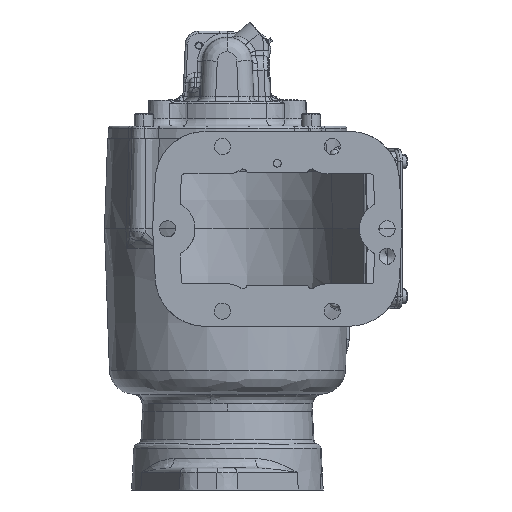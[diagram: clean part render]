
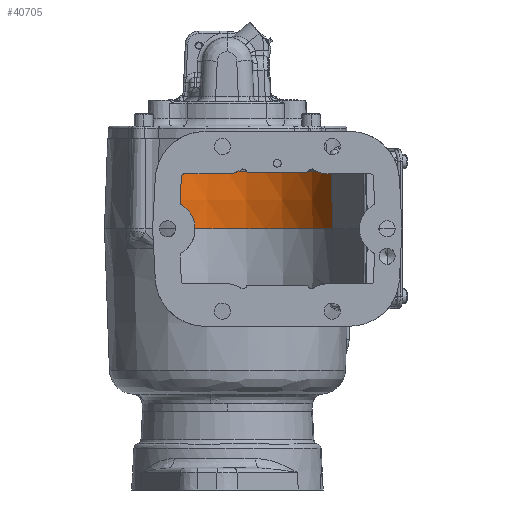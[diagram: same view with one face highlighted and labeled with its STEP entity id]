
A CAD part, front view. The second image highlights one B-rep face of the part: STEP entity #40705.
In plain terms, the highlighted conical face has half-angle 2 degrees and reference radius 71.882 mm.
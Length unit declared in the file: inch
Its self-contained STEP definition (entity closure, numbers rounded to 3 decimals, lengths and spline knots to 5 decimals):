
#4745 = FACE_OUTER_BOUND ( 'NONE', #75645, .T. ) ;
#5788 = CIRCLE ( 'NONE', #86794, 2.77964 ) ;
#9739 = CARTESIAN_POINT ( 'NONE',  ( 1.34502, 4.32573, 1.44209 ) ) ;
#10565 = CARTESIAN_POINT ( 'NONE',  ( -1.25, 6.10924, 1.44209 ) ) ;
#13751 = DIRECTION ( 'NONE',  ( 0., -1., 0. ) ) ;
#23422 = CARTESIAN_POINT ( 'NONE',  ( 1.39203, 4.34378, 0. ) ) ;
#25257 = CARTESIAN_POINT ( 'NONE',  ( -4.08, 3.3296, 0. ) ) ;
#32067 = ORIENTED_EDGE ( 'NONE', *, *, #131048, .T. ) ;
#34208 = CARTESIAN_POINT ( 'NONE',  ( 1.39203, 4.34378, 0. ) ) ;
#37820 = LINE ( 'NONE', #23422, #216923 ) ;
#40705 = ADVANCED_FACE ( 'NONE', ( #4745 ), #42455, .F. ) ;
#42455 = CONICAL_SURFACE ( 'NONE', #148003, 2.83, 0.035 ) ;
#43154 = CARTESIAN_POINT ( 'NONE',  ( -4.02964, 3.3296, 1.44209 ) ) ;
#56894 = VERTEX_POINT ( 'NONE', #10565 ) ;
#57585 = EDGE_CURVE ( 'NONE', #84266, #131579, #144255, .T. ) ;
#59593 = ORIENTED_EDGE ( 'NONE', *, *, #69823, .T. ) ;
#63381 = DIRECTION ( 'NONE',  ( 0., 0., 1. ) ) ;
#65580 = ORIENTED_EDGE ( 'NONE', *, *, #128319, .F. ) ;
#65694 = AXIS2_PLACEMENT_3D ( 'NONE', #177907, #111751, #110658 ) ;
#69823 = EDGE_CURVE ( 'NONE', #186178, #170840, #37820, .T. ) ;
#71975 = DIRECTION ( 'NONE',  ( -0.033, -0.013, 0.999 ) ) ;
#75645 = EDGE_LOOP ( 'NONE', ( #32067, #191344, #203806, #65580, #59593 ) ) ;
#81360 = AXIS2_PLACEMENT_3D ( 'NONE', #144342, #129964, #211540 ) ;
#82921 = CARTESIAN_POINT ( 'NONE',  ( -4.08, 3.3296, 0. ) ) ;
#84266 = VERTEX_POINT ( 'NONE', #43154 ) ;
#86794 = AXIS2_PLACEMENT_3D ( 'NONE', #118435, #63381, #13751 ) ;
#90351 = DIRECTION ( 'NONE',  ( -0.035, 0., -0.999 ) ) ;
#110658 = DIRECTION ( 'NONE',  ( 0., -1., 0. ) ) ;
#111751 = DIRECTION ( 'NONE',  ( 0., 0., 1. ) ) ;
#115261 = CARTESIAN_POINT ( 'NONE',  ( -1.25, 3.3296, 0. ) ) ;
#118435 = CARTESIAN_POINT ( 'NONE',  ( -1.25, 3.3296, 1.44209 ) ) ;
#128319 = EDGE_CURVE ( 'NONE', #186178, #131579, #143067, .T. ) ;
#128784 = VECTOR ( 'NONE', #90351, 39.37008 ) ;
#129964 = DIRECTION ( 'NONE',  ( 0., 0., 1. ) ) ;
#131048 = EDGE_CURVE ( 'NONE', #170840, #56894, #5788, .T. ) ;
#131579 = VERTEX_POINT ( 'NONE', #82921 ) ;
#143067 = CIRCLE ( 'NONE', #65694, 2.83 ) ;
#144255 = LINE ( 'NONE', #25257, #128784 ) ;
#144342 = CARTESIAN_POINT ( 'NONE',  ( -1.25, 3.3296, 1.44209 ) ) ;
#148003 = AXIS2_PLACEMENT_3D ( 'NONE', #115261, #155684, #172250 ) ;
#155684 = DIRECTION ( 'NONE',  ( 0., 0., -1. ) ) ;
#159938 = EDGE_CURVE ( 'NONE', #56894, #84266, #215057, .T. ) ;
#170840 = VERTEX_POINT ( 'NONE', #9739 ) ;
#172250 = DIRECTION ( 'NONE',  ( -1., 0., 0. ) ) ;
#177907 = CARTESIAN_POINT ( 'NONE',  ( -1.25, 3.3296, 0. ) ) ;
#186178 = VERTEX_POINT ( 'NONE', #34208 ) ;
#191344 = ORIENTED_EDGE ( 'NONE', *, *, #159938, .T. ) ;
#203806 = ORIENTED_EDGE ( 'NONE', *, *, #57585, .T. ) ;
#211540 = DIRECTION ( 'NONE',  ( 0., -1., 0. ) ) ;
#215057 = CIRCLE ( 'NONE', #81360, 2.77964 ) ;
#216923 = VECTOR ( 'NONE', #71975, 39.37008 ) ;
